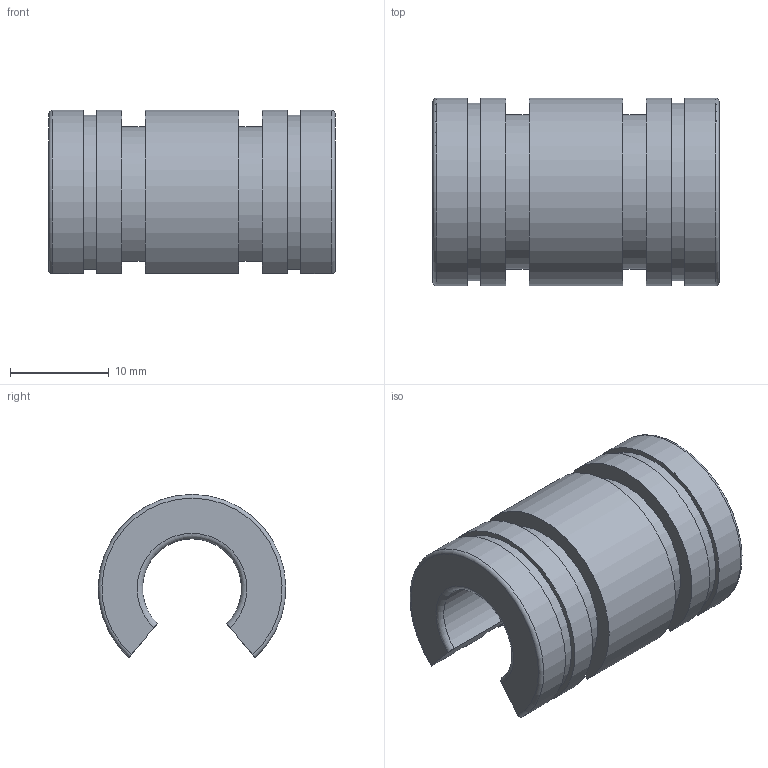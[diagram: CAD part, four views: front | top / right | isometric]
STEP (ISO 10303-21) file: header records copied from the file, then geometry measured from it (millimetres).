
FILE_DESCRIPTION(('STEP AP203'),'1');
FILE_NAME('//192.168.1.1/share/s-4 技術開発/s-4-4_CAD/s-4-4-3_見直し済み/PBC LINEAR修正済み/FJN/FJN_TOP/FJN10.step','2022-03-24T07:44:50',(' '),(' '),'Spatial InterOp 3D',' ',' ');
FILE_SCHEMA(('CONFIG_CONTROL_DESIGN'));
Length unit declared in the file: millimetre
Products named in the file (1): 1
Bounding box: 29 x 18.99 x 16.52 mm (x, y, z)
Volume: 4132.4 mm3; surface area: 2857.5 mm2
Topology: 1 solids, 1 shells, 26 faces, 72 edges, 48 vertices
Faces by surface type: plane 12, cylinder 10, torus 4
Entity records: 908 total; most frequent: CARTESIAN_POINT 187, ORIENTED_EDGE 144, DIRECTION 142, EDGE_CURVE 72, AXIS2_PLACEMENT_3D 51, VERTEX_POINT 48, LINE 40, VECTOR 40
